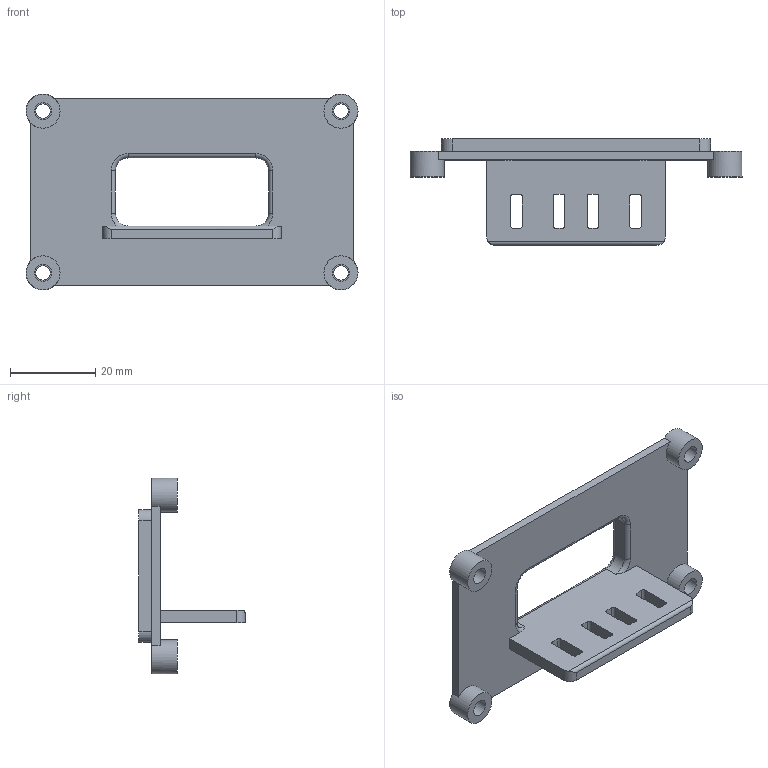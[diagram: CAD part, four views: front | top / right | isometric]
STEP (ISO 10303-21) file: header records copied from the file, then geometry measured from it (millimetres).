
FILE_DESCRIPTION(/* description */ ('One 36 x 16 mm rounded cable opening for the official Pi USB-C supply and servo DC cable. R1 aperture edges, integral tie-down shelf with two independent cable-tie positions. Accepts nominal plugs up to 12.3 x 7.3 mm for Pi, and provisional 12 mm diameter barrel moulding. Cable ties: 2.5 mm wide; do not crush insulation. Original four-M3 panel fixing pattern retained.'),/* implementation_level */ '2;1');
FILE_NAME(/* name */ '05 Power inlet panel.step',/* time_stamp */ '2026-10-02T18:55:17+01:00',/* author */ (''),/* organization */ (''),/* preprocessor_version */ 'ST-DEVELOPER v20.2',/* originating_system */ 'Autodesk Translation Framework v15.15.0.0',/* authorisation */ '');
FILE_SCHEMA (('AUTOMOTIVE_DESIGN { 1 0 10303 214 3 1 1 }'));
Length unit declared in the file: millimetre
Products named in the file (1): 2026-10-02-18-55-16-989
Bounding box: 78 x 25 x 46 mm (x, y, z)
Volume: 12527.1 mm3; surface area: 9543.8 mm2
Topology: 1 solids, 1 shells, 97 faces, 256 edges, 166 vertices
Faces by surface type: cylinder 46, plane 43, torus 8
Full cylindrical faces by diameter (mm): 3.4 x4, 4 x4, 8 x4
Entity records: 3112 total; most frequent: DIRECTION 554, CARTESIAN_POINT 540, ORIENTED_EDGE 512, EDGE_CURVE 256, AXIS2_PLACEMENT_3D 204, VERTEX_POINT 166, LINE 146, VECTOR 146
